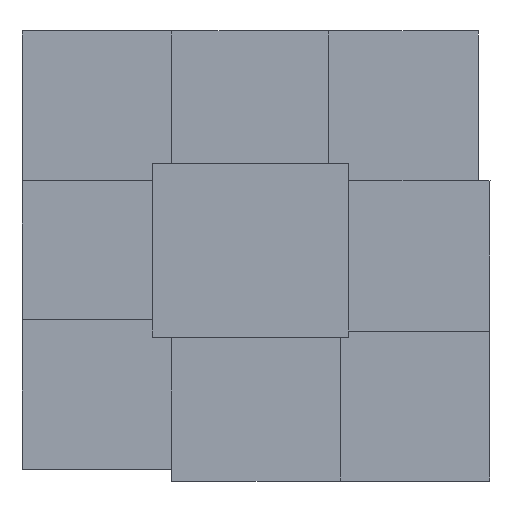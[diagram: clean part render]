
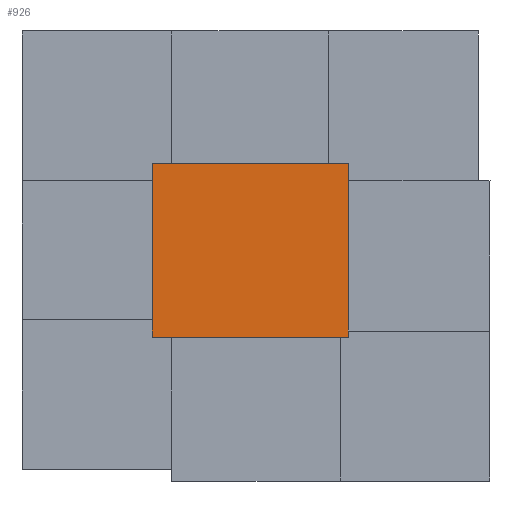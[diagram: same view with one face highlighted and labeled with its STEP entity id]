
A CAD part, left-side view. The second image highlights one B-rep face of the part: STEP entity #926.
In plain terms, the highlighted planar face has unit normal (-1, 0, 0).
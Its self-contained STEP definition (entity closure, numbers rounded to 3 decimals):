
#808=CARTESIAN_POINT('Line Origine',(0.,0.,58.)) ;
#812=CARTESIAN_POINT('Vertex',(0.,0.,0.)) ;
#814=CARTESIAN_POINT('Vertex',(0.,0.,116.)) ;
#883=CARTESIAN_POINT('Vertex',(0.,131.,0.)) ;
#886=CARTESIAN_POINT('Line Origine',(0.,131.,58.)) ;
#890=CARTESIAN_POINT('Vertex',(0.,131.,116.)) ;
#905=CARTESIAN_POINT('Axis2P3D Location',(0.,131.,0.)) ;
#910=CARTESIAN_POINT('Line Origine',(0.,65.5,0.)) ;
#915=CARTESIAN_POINT('Line Origine',(0.,65.5,116.)) ;
#809=DIRECTION('Vector Direction',(0.,0.,1.)) ;
#887=DIRECTION('Vector Direction',(0.,0.,1.)) ;
#906=DIRECTION('Axis2P3D Direction',(-1.,0.,0.)) ;
#907=DIRECTION('Axis2P3D XDirection',(0.,-1.,0.)) ;
#911=DIRECTION('Vector Direction',(0.,-1.,0.)) ;
#916=DIRECTION('Vector Direction',(0.,-1.,0.)) ;
#908=AXIS2_PLACEMENT_3D('Plane Axis2P3D',#905,#906,#907) ;
#921=ORIENTED_EDGE('',*,*,#892,.F.) ;
#922=ORIENTED_EDGE('',*,*,#914,.T.) ;
#923=ORIENTED_EDGE('',*,*,#816,.T.) ;
#924=ORIENTED_EDGE('',*,*,#919,.F.) ;
#810=VECTOR('Line Direction',#809,1.) ;
#888=VECTOR('Line Direction',#887,1.) ;
#912=VECTOR('Line Direction',#911,1.) ;
#917=VECTOR('Line Direction',#916,1.) ;
#926=ADVANCED_FACE('Body.2-molde-superior',(#925),#909,.T.) ;
#816=EDGE_CURVE('',#813,#815,#811,.T.) ;
#892=EDGE_CURVE('',#884,#891,#889,.T.) ;
#914=EDGE_CURVE('',#884,#813,#913,.T.) ;
#919=EDGE_CURVE('',#891,#815,#918,.T.) ;
#920=EDGE_LOOP('',(#921,#922,#923,#924)) ;
#925=FACE_OUTER_BOUND('',#920,.T.) ;
#811=LINE('Line',#808,#810) ;
#889=LINE('Line',#886,#888) ;
#913=LINE('Line',#910,#912) ;
#918=LINE('Line',#915,#917) ;
#909=PLANE('',#908) ;
#813=VERTEX_POINT('',#812) ;
#815=VERTEX_POINT('',#814) ;
#884=VERTEX_POINT('',#883) ;
#891=VERTEX_POINT('',#890) ;
